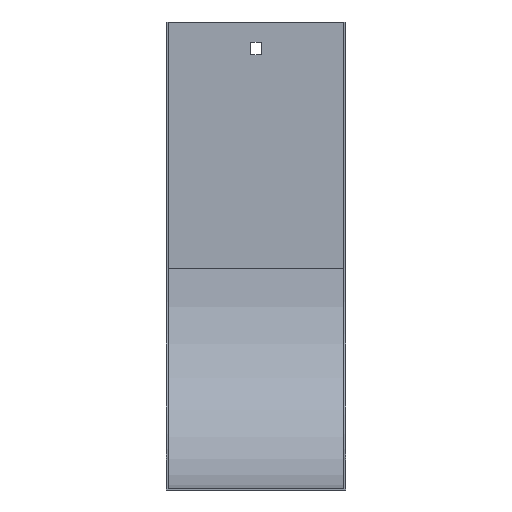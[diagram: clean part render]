
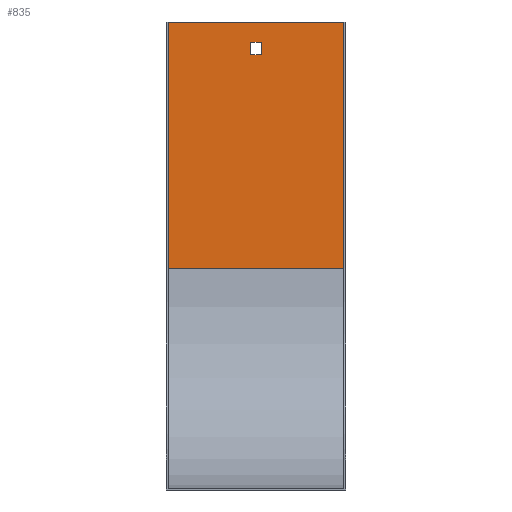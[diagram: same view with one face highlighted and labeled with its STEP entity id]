
A CAD part, front view. The second image highlights one B-rep face of the part: STEP entity #835.
In plain terms, the highlighted planar face has unit normal (0, -1, 0).
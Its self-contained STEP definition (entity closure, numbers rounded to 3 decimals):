
#9 = DIRECTION ( 'NONE',  ( 0., 0., -1. ) ) ;
#14 = CARTESIAN_POINT ( 'NONE',  ( 51., -1., 0. ) ) ;
#21 = DIRECTION ( 'NONE',  ( -1., 0., 0. ) ) ;
#28 = DIRECTION ( 'NONE',  ( -1., 0., 0. ) ) ;
#30 = CARTESIAN_POINT ( 'NONE',  ( 51., -1., -18.5 ) ) ;
#31 = VERTEX_POINT ( 'NONE', #851 ) ;
#36 = VERTEX_POINT ( 'NONE', #606 ) ;
#50 = VERTEX_POINT ( 'NONE', #527 ) ;
#75 = DIRECTION ( 'NONE',  ( 0., 0., 1. ) ) ;
#86 = EDGE_CURVE ( 'NONE', #36, #839, #460, .T. ) ;
#104 = ORIENTED_EDGE ( 'NONE', *, *, #413, .F. ) ;
#106 = LINE ( 'NONE', #204, #479 ) ;
#109 = CARTESIAN_POINT ( 'NONE',  ( -3., -1., 0. ) ) ;
#135 = EDGE_CURVE ( 'NONE', #631, #518, #350, .T. ) ;
#145 = ORIENTED_EDGE ( 'NONE', *, *, #617, .F. ) ;
#147 = CARTESIAN_POINT ( 'NONE',  ( 3., -1., -11.5 ) ) ;
#157 = FACE_BOUND ( 'NONE', #462, .T. ) ;
#169 = DIRECTION ( 'NONE',  ( 0., 0., 1. ) ) ;
#175 = LINE ( 'NONE', #587, #621 ) ;
#176 = VERTEX_POINT ( 'NONE', #555 ) ;
#177 = EDGE_CURVE ( 'NONE', #518, #176, #175, .T. ) ;
#204 = CARTESIAN_POINT ( 'NONE',  ( 50., -1., -140. ) ) ;
#219 = LINE ( 'NONE', #30, #522 ) ;
#250 = VECTOR ( 'NONE', #295, 1000. ) ;
#255 = EDGE_CURVE ( 'NONE', #631, #393, #106, .T. ) ;
#276 = CARTESIAN_POINT ( 'NONE',  ( 51., -1., 0. ) ) ;
#291 = AXIS2_PLACEMENT_3D ( 'NONE', #14, #552, #9 ) ;
#293 = VECTOR ( 'NONE', #169, 1000. ) ;
#295 = DIRECTION ( 'NONE',  ( 0., 0., -1. ) ) ;
#309 = CARTESIAN_POINT ( 'NONE',  ( 51., -1., -140. ) ) ;
#350 = LINE ( 'NONE', #309, #579 ) ;
#356 = FACE_OUTER_BOUND ( 'NONE', #556, .T. ) ;
#393 = VERTEX_POINT ( 'NONE', #558 ) ;
#413 = EDGE_CURVE ( 'NONE', #50, #36, #219, .T. ) ;
#442 = ORIENTED_EDGE ( 'NONE', *, *, #863, .F. ) ;
#450 = DIRECTION ( 'NONE',  ( 0., 0., 1. ) ) ;
#460 = LINE ( 'NONE', #797, #293 ) ;
#462 = EDGE_LOOP ( 'NONE', ( #145, #442, #721, #104 ) ) ;
#479 = VECTOR ( 'NONE', #75, 1000. ) ;
#499 = CARTESIAN_POINT ( 'NONE',  ( -50., -1., -140. ) ) ;
#511 = LINE ( 'NONE', #109, #250 ) ;
#518 = VERTEX_POINT ( 'NONE', #499 ) ;
#522 = VECTOR ( 'NONE', #549, 1000. ) ;
#527 = CARTESIAN_POINT ( 'NONE',  ( -3., -1., -18.5 ) ) ;
#549 = DIRECTION ( 'NONE',  ( 1., 0., 0. ) ) ;
#552 = DIRECTION ( 'NONE',  ( 0., -1., 0. ) ) ;
#555 = CARTESIAN_POINT ( 'NONE',  ( -50., -1., 0. ) ) ;
#556 = EDGE_LOOP ( 'NONE', ( #570, #585, #624, #774 ) ) ;
#558 = CARTESIAN_POINT ( 'NONE',  ( 50., -1., 0. ) ) ;
#570 = ORIENTED_EDGE ( 'NONE', *, *, #177, .F. ) ;
#579 = VECTOR ( 'NONE', #28, 1000. ) ;
#585 = ORIENTED_EDGE ( 'NONE', *, *, #135, .F. ) ;
#587 = CARTESIAN_POINT ( 'NONE',  ( -50., -1., -140. ) ) ;
#606 = CARTESIAN_POINT ( 'NONE',  ( 3., -1., -18.5 ) ) ;
#617 = EDGE_CURVE ( 'NONE', #31, #50, #511, .T. ) ;
#620 = CARTESIAN_POINT ( 'NONE',  ( 51., -1., -11.5 ) ) ;
#621 = VECTOR ( 'NONE', #450, 1000. ) ;
#624 = ORIENTED_EDGE ( 'NONE', *, *, #255, .T. ) ;
#625 = PLANE ( 'NONE',  #291 ) ;
#631 = VERTEX_POINT ( 'NONE', #834 ) ;
#680 = LINE ( 'NONE', #276, #756 ) ;
#694 = DIRECTION ( 'NONE',  ( -1., 0., 0. ) ) ;
#701 = VECTOR ( 'NONE', #21, 1000. ) ;
#721 = ORIENTED_EDGE ( 'NONE', *, *, #86, .F. ) ;
#756 = VECTOR ( 'NONE', #694, 1000. ) ;
#774 = ORIENTED_EDGE ( 'NONE', *, *, #798, .T. ) ;
#797 = CARTESIAN_POINT ( 'NONE',  ( 3., -1., 0. ) ) ;
#798 = EDGE_CURVE ( 'NONE', #393, #176, #680, .T. ) ;
#808 = LINE ( 'NONE', #620, #701 ) ;
#834 = CARTESIAN_POINT ( 'NONE',  ( 50., -1., -140. ) ) ;
#835 = ADVANCED_FACE ( 'NONE', ( #157, #356 ), #625, .T. ) ;
#839 = VERTEX_POINT ( 'NONE', #147 ) ;
#851 = CARTESIAN_POINT ( 'NONE',  ( -3., -1., -11.5 ) ) ;
#863 = EDGE_CURVE ( 'NONE', #839, #31, #808, .T. ) ;
